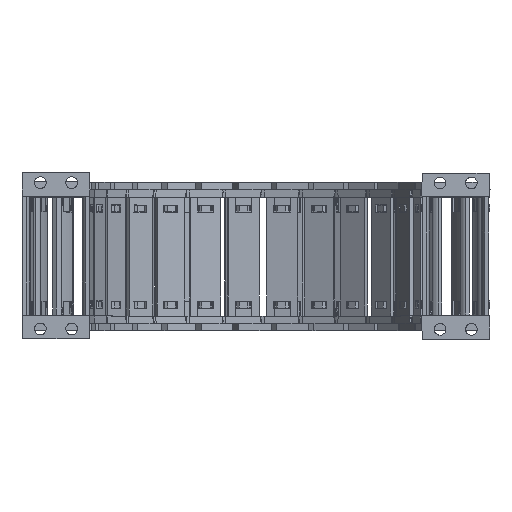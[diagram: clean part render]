
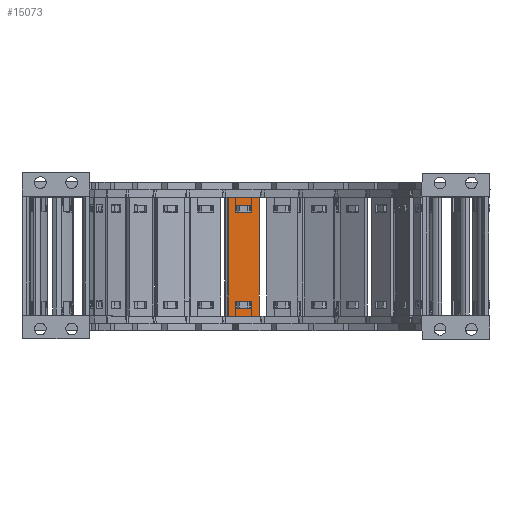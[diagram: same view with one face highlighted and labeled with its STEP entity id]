
A CAD part, top view. The second image highlights one B-rep face of the part: STEP entity #15073.
In plain terms, the highlighted planar face has unit normal (0.048, 0, 0.999).
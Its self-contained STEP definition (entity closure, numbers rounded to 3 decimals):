
#162=FACE_BOUND('',#30481,.T.);
#163=FACE_BOUND('',#30482,.T.);
#164=FACE_BOUND('',#30483,.T.);
#8711=PLANE('',#146224);
#15073=ADVANCED_FACE('',(#162,#163,#164),#8711,.F.);
#30481=EDGE_LOOP('',(#63649,#63650,#63651,#63652));
#30482=EDGE_LOOP('',(#63653,#63654,#63655,#63656));
#30483=EDGE_LOOP('',(#63657,#63658,#63659,#63660));
#63649=ORIENTED_EDGE('',*,*,#104155,.F.);
#63650=ORIENTED_EDGE('',*,*,#104126,.F.);
#63651=ORIENTED_EDGE('',*,*,#104160,.F.);
#63652=ORIENTED_EDGE('',*,*,#104137,.F.);
#63653=ORIENTED_EDGE('',*,*,#104172,.F.);
#63654=ORIENTED_EDGE('',*,*,#104165,.F.);
#63655=ORIENTED_EDGE('',*,*,#104204,.F.);
#63656=ORIENTED_EDGE('',*,*,#104179,.T.);
#63657=ORIENTED_EDGE('',*,*,#104202,.T.);
#63658=ORIENTED_EDGE('',*,*,#104205,.F.);
#63659=ORIENTED_EDGE('',*,*,#104206,.F.);
#63660=ORIENTED_EDGE('',*,*,#104207,.F.);
#86184=VERTEX_POINT('',#224477);
#86185=VERTEX_POINT('',#224479);
#86191=VERTEX_POINT('',#224494);
#86194=VERTEX_POINT('',#224500);
#86211=VERTEX_POINT('',#224557);
#86212=VERTEX_POINT('',#224558);
#86218=VERTEX_POINT('',#224572);
#86221=VERTEX_POINT('',#224580);
#86234=VERTEX_POINT('',#224627);
#86235=VERTEX_POINT('',#224629);
#86236=VERTEX_POINT('',#224634);
#86237=VERTEX_POINT('',#224636);
#104126=EDGE_CURVE('',#86184,#86185,#119852,.T.);
#104137=EDGE_CURVE('',#86194,#86191,#119863,.T.);
#104155=EDGE_CURVE('',#86185,#86194,#119878,.T.);
#104160=EDGE_CURVE('',#86191,#86184,#119883,.T.);
#104165=EDGE_CURVE('',#86211,#86212,#119888,.T.);
#104172=EDGE_CURVE('',#86212,#86218,#119895,.T.);
#104179=EDGE_CURVE('',#86221,#86218,#119902,.T.);
#104202=EDGE_CURVE('',#86235,#86234,#119916,.T.);
#104204=EDGE_CURVE('',#86221,#86211,#119918,.T.);
#104205=EDGE_CURVE('',#86236,#86234,#119919,.T.);
#104206=EDGE_CURVE('',#86237,#86236,#119920,.T.);
#104207=EDGE_CURVE('',#86235,#86237,#119921,.T.);
#119852=LINE('',#224478,#133314);
#119863=LINE('',#224501,#133325);
#119878=LINE('',#224536,#133340);
#119883=LINE('',#224545,#133345);
#119888=LINE('',#224556,#133350);
#119895=LINE('',#224571,#133357);
#119902=LINE('',#224584,#133364);
#119916=LINE('',#224628,#133378);
#119918=LINE('',#224632,#133380);
#119919=LINE('',#224633,#133381);
#119920=LINE('',#224635,#133382);
#119921=LINE('',#224637,#133383);
#133314=VECTOR('',#175489,1.);
#133325=VECTOR('',#175504,1.);
#133340=VECTOR('',#175539,1.);
#133345=VECTOR('',#175548,1.);
#133350=VECTOR('',#175557,1.);
#133357=VECTOR('',#175566,1.);
#133364=VECTOR('',#175575,1.);
#133378=VECTOR('',#175625,1.);
#133380=VECTOR('',#175629,1.);
#133381=VECTOR('',#175630,1.);
#133382=VECTOR('',#175631,1.);
#133383=VECTOR('',#175632,1.);
#146224=AXIS2_PLACEMENT_3D('',#224638,#175633,#175634);
#175489=DIRECTION('',(0.999,0.,-0.048));
#175504=DIRECTION('',(-0.999,0.,0.048));
#175539=DIRECTION('',(0.,1.,0.));
#175548=DIRECTION('',(0.,-1.,0.));
#175557=DIRECTION('',(-0.999,0.,0.048));
#175566=DIRECTION('',(0.,-1.,0.));
#175575=DIRECTION('',(-0.999,0.,0.048));
#175625=DIRECTION('',(0.,-1.,0.));
#175629=DIRECTION('',(0.,1.,0.));
#175630=DIRECTION('',(-0.999,0.,0.048));
#175631=DIRECTION('',(0.,-1.,0.));
#175632=DIRECTION('',(0.999,0.,-0.048));
#175633=DIRECTION('',(-0.048,0.,-0.999));
#175634=DIRECTION('',(-0.999,0.,0.048));
#224477=CARTESIAN_POINT('',(-112.088,-56.53,-104.598));
#224478=CARTESIAN_POINT('',(-112.088,-56.53,-104.598));
#224479=CARTESIAN_POINT('',(-103.947,-56.53,-104.989));
#224494=CARTESIAN_POINT('',(-112.088,-52.882,-104.598));
#224500=CARTESIAN_POINT('',(-103.947,-52.882,-104.989));
#224501=CARTESIAN_POINT('',(-103.947,-52.882,-104.989));
#224536=CARTESIAN_POINT('',(-103.947,-87.96,-104.989));
#224545=CARTESIAN_POINT('',(-112.088,-84.36,-104.598));
#224556=CARTESIAN_POINT('',(-103.947,-3.97,-104.989));
#224557=CARTESIAN_POINT('',(-103.947,-3.97,-104.989));
#224558=CARTESIAN_POINT('',(-112.088,-3.97,-104.598));
#224571=CARTESIAN_POINT('',(-112.088,-3.97,-104.598));
#224572=CARTESIAN_POINT('',(-112.088,-7.618,-104.598));
#224580=CARTESIAN_POINT('',(-103.947,-7.618,-104.989));
#224584=CARTESIAN_POINT('',(-103.947,-7.618,-104.989));
#224627=CARTESIAN_POINT('',(-115.908,-60.5,-104.414));
#224628=CARTESIAN_POINT('',(-115.908,0.,-104.414));
#224629=CARTESIAN_POINT('',(-115.908,0.,-104.414));
#224632=CARTESIAN_POINT('',(-103.947,-7.618,-104.989));
#224633=CARTESIAN_POINT('',(-100.127,-60.5,-105.172));
#224634=CARTESIAN_POINT('',(-100.127,-60.5,-105.172));
#224635=CARTESIAN_POINT('',(-100.127,0.,-105.172));
#224636=CARTESIAN_POINT('',(-100.127,0.,-105.172));
#224637=CARTESIAN_POINT('',(-115.908,0.,-104.414));
#224638=CARTESIAN_POINT('',(-97.969,31.74,-105.276));
